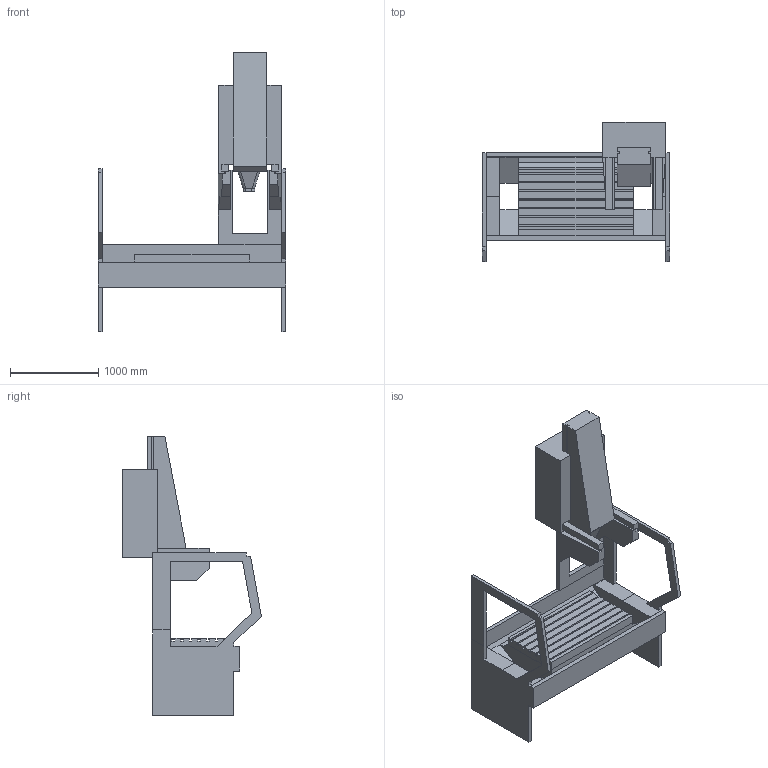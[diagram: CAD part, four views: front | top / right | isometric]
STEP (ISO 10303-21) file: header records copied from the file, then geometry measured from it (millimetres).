
FILE_DESCRIPTION(('CATIA V5 STEP Exchange'),'2;1');
FILE_NAME('F:\SOMAB Univer 700\Step_NCsimul\SOMAB_Univer_700.stp','2016-10-16T20:26:39+00:00',('none'),('none'),'Unofficial Packaging Version','CATIA V5 STEP AP203','none');
FILE_SCHEMA(('CONFIG_CONTROL_DESIGN'));
Length unit declared in the file: millimetre
Products named in the file (1): UNIVER700
Assembly tree (8 placements, depth 2):
  UNIVER700
    #58
    #2445
    #3309
    #4452  x2
    #4642
    #5442
    #7391
Bounding box: 2120.02 x 1574.63 x 3165 mm (x, y, z)
Volume: 1108151312.6 mm3; surface area: 22236298.3 mm2
Topology: 8 solids, 8 shells, 251 faces, 720 edges, 475 vertices
Faces by surface type: plane 231, cylinder 14, cone 6
Entity records: 7718 total; most frequent: CARTESIAN_POINT 1485, ORIENTED_EDGE 1404, DIRECTION 1030, EDGE_CURVE 702, VECTOR 656, LINE 656, VERTEX_POINT 467, EDGE_LOOP 249
